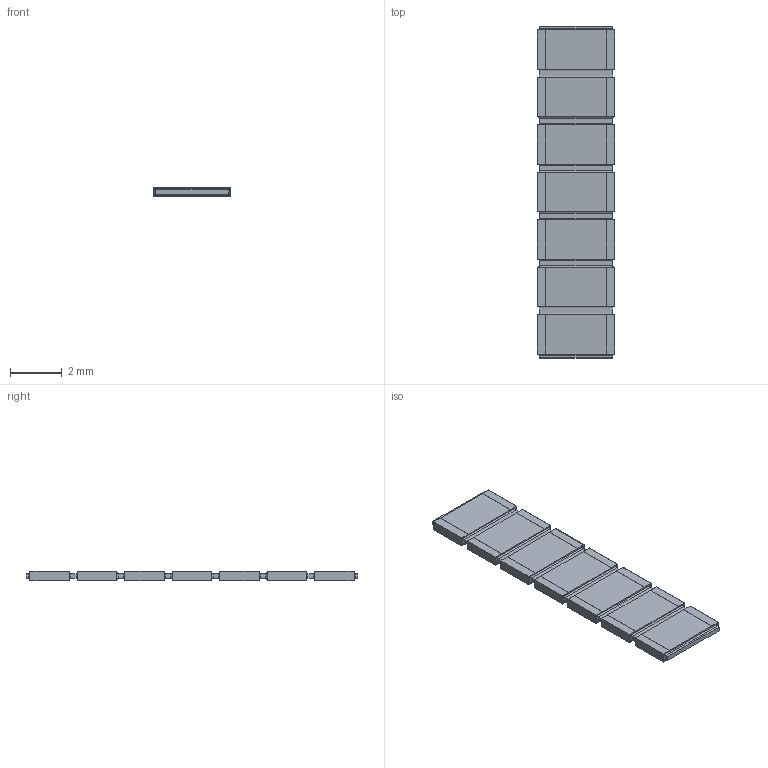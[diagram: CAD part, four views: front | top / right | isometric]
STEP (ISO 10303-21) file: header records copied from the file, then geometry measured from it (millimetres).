
FILE_DESCRIPTION(/* description */ (''),/* implementation_level */ '2;1');
FILE_NAME(/* name */ 'S:\DOCUMENT\AUTOCAD\3D_Modèles\10_3D-pour-VISHAY-COM\PRA\PRAHR182I7_B.stp',/* time_stamp */ '2018-02-02T10:53:32+01:00',/* author */ ('dparmentier'),/* organization */ ('unknown'),/* preprocessor_version */ 'ST-DEVELOPER v17',/* originating_system */ 'Autodesk Inventor 2018',/* authorisation */ '');
FILE_SCHEMA (('AUTOMOTIVE_DESIGN { 1 0 10303 214 3 1 1 }'));
Length unit declared in the file: millimetre
Products named in the file (1): PRAHR182I7_B
Bounding box: 3 x 12.78 x 0.38 mm (x, y, z)
Volume: 13 mm3; surface area: 137.1 mm2
Topology: 15 solids, 15 shells, 272 faces, 628 edges, 400 vertices
Faces by surface type: plane 216, cylinder 56
Entity records: 7559 total; most frequent: CARTESIAN_POINT 1301, ORIENTED_EDGE 1256, DIRECTION 1230, EDGE_CURVE 628, LINE 572, VECTOR 572, VERTEX_POINT 400, AXIS2_PLACEMENT_3D 329
